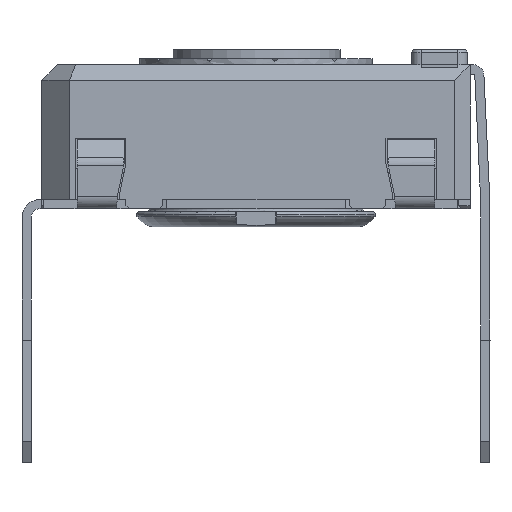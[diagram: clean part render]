
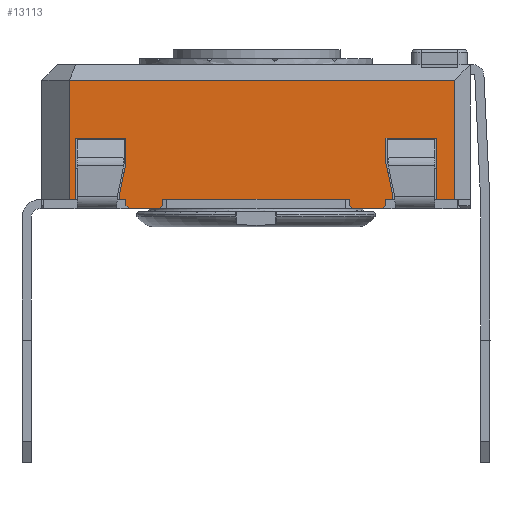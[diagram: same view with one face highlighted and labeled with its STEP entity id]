
A CAD part, left-side view. The second image highlights one B-rep face of the part: STEP entity #13113.
In plain terms, the highlighted planar face has unit normal (-1, 0, 0).
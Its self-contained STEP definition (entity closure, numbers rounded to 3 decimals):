
#1016=FACE_OUTER_BOUND('',#1701,.T.);
#1701=EDGE_LOOP('',(#10460,#10461,#10462,#10463,#10464,#10465,#10466,#10467,
#10468,#10469,#10470,#10471,#10472,#10473,#10474,#10475,#10476,#10477,#10478,
#10479,#10480,#10481,#10482,#10483,#10484,#10485,#10486,#10487));
#2714=LINE('',#20068,#4226);
#2720=LINE('',#20080,#4232);
#2723=LINE('',#20087,#4235);
#2728=LINE('',#20096,#4240);
#2748=LINE('',#20137,#4260);
#2762=LINE('',#20163,#4274);
#2766=LINE('',#20170,#4278);
#2781=LINE('',#20199,#4293);
#2784=LINE('',#20205,#4296);
#2789=LINE('',#20215,#4301);
#2792=LINE('',#20221,#4304);
#2795=LINE('',#20227,#4307);
#2813=LINE('',#20262,#4325);
#2825=LINE('',#20284,#4337);
#2828=LINE('',#20290,#4340);
#2865=LINE('',#20424,#4377);
#2873=LINE('',#20438,#4385);
#2882=LINE('',#20456,#4394);
#2887=LINE('',#20466,#4399);
#2889=LINE('',#20469,#4401);
#3014=LINE('',#20780,#4526);
#3016=LINE('',#20785,#4528);
#3019=LINE('',#20789,#4531);
#3021=LINE('',#20793,#4533);
#3024=LINE('',#20801,#4536);
#3025=LINE('',#20803,#4537);
#3026=LINE('',#20804,#4538);
#3027=LINE('',#20805,#4539);
#4226=VECTOR('',#16061,10.);
#4232=VECTOR('',#16069,10.);
#4235=VECTOR('',#16074,10.);
#4240=VECTOR('',#16081,10.);
#4260=VECTOR('',#16115,10.);
#4274=VECTOR('',#16129,10.);
#4278=VECTOR('',#16133,10.);
#4293=VECTOR('',#16160,10.);
#4296=VECTOR('',#16165,10.);
#4301=VECTOR('',#16172,10.);
#4304=VECTOR('',#16177,10.);
#4307=VECTOR('',#16182,10.);
#4325=VECTOR('',#16202,10.);
#4337=VECTOR('',#16216,10.);
#4340=VECTOR('',#16221,10.);
#4377=VECTOR('',#16302,10.);
#4385=VECTOR('',#16312,10.);
#4394=VECTOR('',#16323,10.);
#4399=VECTOR('',#16330,10.);
#4401=VECTOR('',#16334,10.);
#4526=VECTOR('',#16625,10.);
#4528=VECTOR('',#16629,10.);
#4531=VECTOR('',#16634,10.);
#4533=VECTOR('',#16640,10.);
#4536=VECTOR('',#16651,10.);
#4537=VECTOR('',#16652,10.);
#4538=VECTOR('',#16653,10.);
#4539=VECTOR('',#16654,10.);
#5636=VERTEX_POINT('',#20065);
#5637=VERTEX_POINT('',#20067);
#5641=VERTEX_POINT('',#20077);
#5643=VERTEX_POINT('',#20083);
#5645=VERTEX_POINT('',#20086);
#5648=VERTEX_POINT('',#20094);
#5673=VERTEX_POINT('',#20160);
#5674=VERTEX_POINT('',#20162);
#5676=VERTEX_POINT('',#20167);
#5677=VERTEX_POINT('',#20169);
#5684=VERTEX_POINT('',#20196);
#5686=VERTEX_POINT('',#20202);
#5690=VERTEX_POINT('',#20212);
#5692=VERTEX_POINT('',#20218);
#5695=VERTEX_POINT('',#20225);
#5711=VERTEX_POINT('',#20260);
#5720=VERTEX_POINT('',#20282);
#5722=VERTEX_POINT('',#20288);
#5749=VERTEX_POINT('',#20422);
#5754=VERTEX_POINT('',#20436);
#5761=VERTEX_POINT('',#20453);
#5765=VERTEX_POINT('',#20463);
#5839=VERTEX_POINT('',#20777);
#5840=VERTEX_POINT('',#20779);
#5841=VERTEX_POINT('',#20783);
#5842=VERTEX_POINT('',#20784);
#5843=VERTEX_POINT('',#20800);
#5844=VERTEX_POINT('',#20802);
#7163=EDGE_CURVE('',#5637,#5636,#2714,.T.);
#7169=EDGE_CURVE('',#5636,#5641,#2720,.T.);
#7172=EDGE_CURVE('',#5645,#5643,#2723,.T.);
#7177=EDGE_CURVE('',#5648,#5643,#2728,.T.);
#7197=EDGE_CURVE('',#5641,#5645,#2748,.T.);
#7211=EDGE_CURVE('',#5674,#5673,#2762,.T.);
#7215=EDGE_CURVE('',#5677,#5676,#2766,.T.);
#7231=EDGE_CURVE('',#5673,#5684,#2781,.T.);
#7234=EDGE_CURVE('',#5684,#5686,#2784,.T.);
#7239=EDGE_CURVE('',#5686,#5690,#2789,.T.);
#7242=EDGE_CURVE('',#5690,#5692,#2792,.T.);
#7245=EDGE_CURVE('',#5692,#5695,#2795,.T.);
#7263=EDGE_CURVE('',#5695,#5711,#2813,.T.);
#7275=EDGE_CURVE('',#5720,#5711,#2825,.T.);
#7278=EDGE_CURVE('',#5722,#5720,#2828,.T.);
#7327=EDGE_CURVE('',#5749,#5722,#2865,.T.);
#7335=EDGE_CURVE('',#5749,#5754,#2873,.T.);
#7344=EDGE_CURVE('',#5754,#5761,#2882,.T.);
#7349=EDGE_CURVE('',#5761,#5765,#2887,.T.);
#7351=EDGE_CURVE('',#5765,#5637,#2889,.T.);
#7492=EDGE_CURVE('',#5839,#5840,#3014,.T.);
#7494=EDGE_CURVE('',#5841,#5842,#3016,.T.);
#7497=EDGE_CURVE('',#5674,#5839,#3019,.T.);
#7499=EDGE_CURVE('',#5676,#5842,#3021,.T.);
#7502=EDGE_CURVE('',#5648,#5843,#3024,.T.);
#7503=EDGE_CURVE('',#5844,#5843,#3025,.T.);
#7504=EDGE_CURVE('',#5677,#5844,#3026,.T.);
#7505=EDGE_CURVE('',#5841,#5840,#3027,.T.);
#10460=ORIENTED_EDGE('',*,*,#7169,.T.);
#10461=ORIENTED_EDGE('',*,*,#7197,.T.);
#10462=ORIENTED_EDGE('',*,*,#7172,.T.);
#10463=ORIENTED_EDGE('',*,*,#7177,.F.);
#10464=ORIENTED_EDGE('',*,*,#7502,.T.);
#10465=ORIENTED_EDGE('',*,*,#7503,.F.);
#10466=ORIENTED_EDGE('',*,*,#7504,.F.);
#10467=ORIENTED_EDGE('',*,*,#7215,.T.);
#10468=ORIENTED_EDGE('',*,*,#7499,.T.);
#10469=ORIENTED_EDGE('',*,*,#7494,.F.);
#10470=ORIENTED_EDGE('',*,*,#7505,.T.);
#10471=ORIENTED_EDGE('',*,*,#7492,.F.);
#10472=ORIENTED_EDGE('',*,*,#7497,.F.);
#10473=ORIENTED_EDGE('',*,*,#7211,.T.);
#10474=ORIENTED_EDGE('',*,*,#7231,.T.);
#10475=ORIENTED_EDGE('',*,*,#7234,.T.);
#10476=ORIENTED_EDGE('',*,*,#7239,.T.);
#10477=ORIENTED_EDGE('',*,*,#7242,.T.);
#10478=ORIENTED_EDGE('',*,*,#7245,.T.);
#10479=ORIENTED_EDGE('',*,*,#7263,.T.);
#10480=ORIENTED_EDGE('',*,*,#7275,.F.);
#10481=ORIENTED_EDGE('',*,*,#7278,.F.);
#10482=ORIENTED_EDGE('',*,*,#7327,.F.);
#10483=ORIENTED_EDGE('',*,*,#7335,.T.);
#10484=ORIENTED_EDGE('',*,*,#7344,.T.);
#10485=ORIENTED_EDGE('',*,*,#7349,.T.);
#10486=ORIENTED_EDGE('',*,*,#7351,.T.);
#10487=ORIENTED_EDGE('',*,*,#7163,.T.);
#12284=PLANE('',#13992);
#13113=ADVANCED_FACE('',(#1016),#12284,.T.);
#13992=AXIS2_PLACEMENT_3D('',#20799,#16649,#16650);
#16061=DIRECTION('',(0.,0.208,-0.978));
#16069=DIRECTION('',(0.,0.,-1.));
#16074=DIRECTION('',(0.,0.,-1.));
#16081=DIRECTION('',(0.,0.707,0.707));
#16115=DIRECTION('',(0.,-1.,0.));
#16129=DIRECTION('',(0.,-1.,0.));
#16133=DIRECTION('',(0.,-1.,0.));
#16160=DIRECTION('',(0.,0.,1.));
#16165=DIRECTION('',(0.,0.208,0.978));
#16172=DIRECTION('',(0.,0.,1.));
#16177=DIRECTION('',(0.,-1.,0.));
#16182=DIRECTION('',(0.,0.,-1.));
#16202=DIRECTION('',(0.,-1.,0.));
#16216=DIRECTION('',(0.,0.,-1.));
#16221=DIRECTION('',(0.,-1.,0.));
#16302=DIRECTION('',(0.,0.,1.));
#16312=DIRECTION('',(0.,-1.,0.));
#16323=DIRECTION('',(0.,0.,1.));
#16330=DIRECTION('',(0.,-1.,0.));
#16334=DIRECTION('',(0.,0.,-1.));
#16625=DIRECTION('',(0.,0.707,-0.707));
#16629=DIRECTION('',(0.,0.707,0.707));
#16634=DIRECTION('',(0.,0.,-1.));
#16640=DIRECTION('',(0.,0.,-1.));
#16649=DIRECTION('center_axis',(-1.,0.,0.));
#16650=DIRECTION('ref_axis',(0.,0.,1.));
#16651=DIRECTION('',(0.,-1.,0.));
#16652=DIRECTION('',(0.,0.707,-0.707));
#16653=DIRECTION('',(0.,0.,-1.));
#16654=DIRECTION('',(0.,-1.,0.));
#20065=CARTESIAN_POINT('',(-14.467,1.552,0.235));
#20067=CARTESIAN_POINT('',(-14.467,1.352,1.176));
#20068=CARTESIAN_POINT('',(-14.467,1.228,1.757));
#20077=CARTESIAN_POINT('',(-14.467,1.552,0.));
#20080=CARTESIAN_POINT('',(-14.467,1.552,0.));
#20083=CARTESIAN_POINT('',(-14.467,1.352,-0.2));
#20086=CARTESIAN_POINT('',(-14.467,1.352,0.));
#20087=CARTESIAN_POINT('',(-14.467,1.352,0.));
#20094=CARTESIAN_POINT('',(-14.467,1.252,-0.3));
#20096=CARTESIAN_POINT('',(-14.467,-1.436,-2.988));
#20137=CARTESIAN_POINT('',(-14.467,4.102,0.));
#20160=CARTESIAN_POINT('',(-14.467,-7.348,0.));
#20162=CARTESIAN_POINT('',(-14.467,-7.148,0.));
#20163=CARTESIAN_POINT('',(-14.467,4.102,0.));
#20167=CARTESIAN_POINT('',(-14.467,-5.948,0.));
#20169=CARTESIAN_POINT('',(-14.467,0.152,0.));
#20170=CARTESIAN_POINT('',(-14.467,4.102,0.));
#20196=CARTESIAN_POINT('',(-14.467,-7.348,0.235));
#20199=CARTESIAN_POINT('',(-14.467,-7.348,0.118));
#20202=CARTESIAN_POINT('',(-14.467,-7.148,1.176));
#20205=CARTESIAN_POINT('',(-14.467,-7.453,-0.254));
#20212=CARTESIAN_POINT('',(-14.467,-7.148,2.));
#20215=CARTESIAN_POINT('',(-14.467,-7.148,0.588));
#20218=CARTESIAN_POINT('',(-14.467,-8.798,2.));
#20221=CARTESIAN_POINT('',(-14.467,-8.523,2.));
#20225=CARTESIAN_POINT('',(-14.467,-8.798,0.));
#20227=CARTESIAN_POINT('',(-14.467,-8.798,0.));
#20260=CARTESIAN_POINT('',(-14.467,-9.398,0.));
#20262=CARTESIAN_POINT('',(-14.467,-9.595,0.));
#20282=CARTESIAN_POINT('',(-14.467,-9.398,3.9));
#20284=CARTESIAN_POINT('',(-14.467,-9.398,0.));
#20288=CARTESIAN_POINT('',(-14.467,3.202,3.9));
#20290=CARTESIAN_POINT('',(-14.467,-6.398,3.9));
#20422=CARTESIAN_POINT('',(-14.467,3.202,0.));
#20424=CARTESIAN_POINT('',(-14.467,3.202,0.));
#20436=CARTESIAN_POINT('',(-14.467,3.002,0.));
#20438=CARTESIAN_POINT('',(-14.467,-2.985,0.));
#20453=CARTESIAN_POINT('',(-14.467,3.002,2.));
#20456=CARTESIAN_POINT('',(-14.467,3.002,0.));
#20463=CARTESIAN_POINT('',(-14.467,1.352,2.));
#20466=CARTESIAN_POINT('',(-14.467,-3.448,2.));
#20469=CARTESIAN_POINT('',(-14.467,1.352,1.));
#20777=CARTESIAN_POINT('',(-14.467,-7.148,-0.2));
#20779=CARTESIAN_POINT('',(-14.467,-7.048,-0.3));
#20780=CARTESIAN_POINT('',(-14.467,-7.861,0.513));
#20783=CARTESIAN_POINT('',(-14.467,-6.048,-0.3));
#20784=CARTESIAN_POINT('',(-14.467,-5.948,-0.2));
#20785=CARTESIAN_POINT('',(-14.467,-6.911,-1.163));
#20789=CARTESIAN_POINT('',(-14.467,-7.148,0.));
#20793=CARTESIAN_POINT('',(-14.467,-5.948,0.));
#20799=CARTESIAN_POINT('Origin',(-14.467,-9.898,0.));
#20800=CARTESIAN_POINT('',(-14.467,0.252,-0.3));
#20801=CARTESIAN_POINT('',(-14.467,0.152,-0.3));
#20802=CARTESIAN_POINT('',(-14.467,0.152,-0.2));
#20803=CARTESIAN_POINT('',(-14.467,-2.386,2.338));
#20804=CARTESIAN_POINT('',(-14.467,0.152,0.));
#20805=CARTESIAN_POINT('',(-14.467,-7.148,-0.3));
